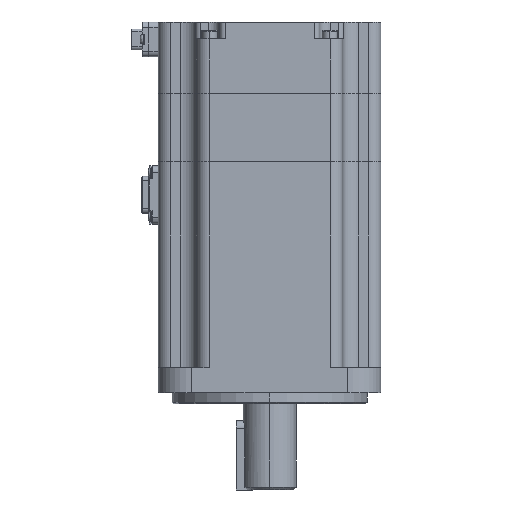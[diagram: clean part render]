
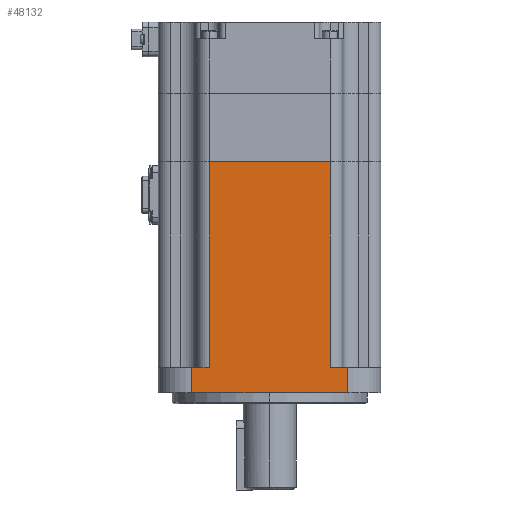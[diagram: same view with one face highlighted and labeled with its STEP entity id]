
A CAD part, left-side view. The second image highlights one B-rep face of the part: STEP entity #48132.
In plain terms, the highlighted planar face has unit normal (-1, 0, 0).
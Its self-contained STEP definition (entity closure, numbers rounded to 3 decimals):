
#552 = CARTESIAN_POINT ( 'NONE',  ( -40., 21.75, 87. ) ) ;
#2321 = DIRECTION ( 'NONE',  ( 0., -1., 0. ) ) ;
#2668 = VECTOR ( 'NONE', #68116, 1000. ) ;
#2839 = EDGE_CURVE ( 'NONE', #43156, #38059, #13300, .T. ) ;
#3531 = VECTOR ( 'NONE', #16710, 1000. ) ;
#4527 = EDGE_CURVE ( 'NONE', #18240, #38059, #11697, .T. ) ;
#4673 = EDGE_CURVE ( 'NONE', #35589, #41060, #36978, .T. ) ;
#7216 = LINE ( 'NONE', #73335, #30425 ) ;
#7989 = DIRECTION ( 'NONE',  ( 0., 0., -1. ) ) ;
#9378 = CARTESIAN_POINT ( 'NONE',  ( -40., -28., 13. ) ) ;
#10597 = ORIENTED_EDGE ( 'NONE', *, *, #66882, .F. ) ;
#11697 = LINE ( 'NONE', #30749, #57533 ) ;
#13300 = LINE ( 'NONE', #37046, #29886 ) ;
#13603 = LINE ( 'NONE', #66908, #16687 ) ;
#16687 = VECTOR ( 'NONE', #2321, 1000. ) ;
#16710 = DIRECTION ( 'NONE',  ( 0., 0., -1. ) ) ;
#18240 = VERTEX_POINT ( 'NONE', #23488 ) ;
#20461 = PLANE ( 'NONE',  #62193 ) ;
#23444 = CARTESIAN_POINT ( 'NONE',  ( -40., 40., 13. ) ) ;
#23488 = CARTESIAN_POINT ( 'NONE',  ( -40., -28., 4. ) ) ;
#24944 = CARTESIAN_POINT ( 'NONE',  ( -40., -21.75, 13. ) ) ;
#25780 = EDGE_CURVE ( 'NONE', #43156, #72352, #76753, .T. ) ;
#26441 = CARTESIAN_POINT ( 'NONE',  ( -40., 40., 13. ) ) ;
#27265 = LINE ( 'NONE', #9378, #2668 ) ;
#28919 = DIRECTION ( 'NONE',  ( 0., -1., 0. ) ) ;
#29561 = CARTESIAN_POINT ( 'NONE',  ( -40., 21.75, 13. ) ) ;
#29886 = VECTOR ( 'NONE', #60756, 1000. ) ;
#30425 = VECTOR ( 'NONE', #7989, 1000. ) ;
#30749 = CARTESIAN_POINT ( 'NONE',  ( -40., 40., 4. ) ) ;
#34744 = CARTESIAN_POINT ( 'NONE',  ( -40., -28., 13. ) ) ;
#35354 = ORIENTED_EDGE ( 'NONE', *, *, #25780, .F. ) ;
#35589 = VERTEX_POINT ( 'NONE', #24944 ) ;
#36978 = LINE ( 'NONE', #26441, #74922 ) ;
#37046 = CARTESIAN_POINT ( 'NONE',  ( -40., 28., 13. ) ) ;
#38059 = VERTEX_POINT ( 'NONE', #66444 ) ;
#38359 = DIRECTION ( 'NONE',  ( 0., 1., 0. ) ) ;
#39740 = VERTEX_POINT ( 'NONE', #552 ) ;
#40605 = CARTESIAN_POINT ( 'NONE',  ( -40., 28., 13. ) ) ;
#41060 = VERTEX_POINT ( 'NONE', #34744 ) ;
#41429 = EDGE_CURVE ( 'NONE', #18240, #41060, #27265, .T. ) ;
#41505 = CARTESIAN_POINT ( 'NONE',  ( -40., -21.75, 87. ) ) ;
#42835 = ORIENTED_EDGE ( 'NONE', *, *, #41429, .T. ) ;
#43156 = VERTEX_POINT ( 'NONE', #40605 ) ;
#43822 = CARTESIAN_POINT ( 'NONE',  ( -40., 40., 13. ) ) ;
#45531 = LINE ( 'NONE', #75471, #3531 ) ;
#46117 = VECTOR ( 'NONE', #28919, 1000. ) ;
#47661 = ORIENTED_EDGE ( 'NONE', *, *, #4527, .F. ) ;
#48132 = ADVANCED_FACE ( 'NONE', ( #73369 ), #20461, .F. ) ;
#48684 = ORIENTED_EDGE ( 'NONE', *, *, #48851, .T. ) ;
#48851 = EDGE_CURVE ( 'NONE', #39740, #72352, #45531, .T. ) ;
#50177 = DIRECTION ( 'NONE',  ( 0., -1., 0. ) ) ;
#50419 = DIRECTION ( 'NONE',  ( 1., 0., 0. ) ) ;
#55546 = ORIENTED_EDGE ( 'NONE', *, *, #2839, .T. ) ;
#57533 = VECTOR ( 'NONE', #76689, 1000. ) ;
#58903 = VERTEX_POINT ( 'NONE', #41505 ) ;
#60756 = DIRECTION ( 'NONE',  ( 0., 0., -1. ) ) ;
#62193 = AXIS2_PLACEMENT_3D ( 'NONE', #43822, #50419, #38359 ) ;
#64590 = EDGE_CURVE ( 'NONE', #39740, #58903, #13603, .T. ) ;
#66444 = CARTESIAN_POINT ( 'NONE',  ( -40., 28., 4. ) ) ;
#66882 = EDGE_CURVE ( 'NONE', #58903, #35589, #7216, .T. ) ;
#66908 = CARTESIAN_POINT ( 'NONE',  ( -40., 21.75, 87. ) ) ;
#68116 = DIRECTION ( 'NONE',  ( 0., 0., 1. ) ) ;
#68796 = EDGE_LOOP ( 'NONE', ( #47661, #42835, #72267, #10597, #72516, #48684, #35354, #55546 ) ) ;
#72267 = ORIENTED_EDGE ( 'NONE', *, *, #4673, .F. ) ;
#72352 = VERTEX_POINT ( 'NONE', #29561 ) ;
#72516 = ORIENTED_EDGE ( 'NONE', *, *, #64590, .F. ) ;
#73335 = CARTESIAN_POINT ( 'NONE',  ( -40., -21.75, 87. ) ) ;
#73369 = FACE_OUTER_BOUND ( 'NONE', #68796, .T. ) ;
#74922 = VECTOR ( 'NONE', #50177, 1000. ) ;
#75471 = CARTESIAN_POINT ( 'NONE',  ( -40., 21.75, 87. ) ) ;
#76689 = DIRECTION ( 'NONE',  ( 0., 1., 0. ) ) ;
#76753 = LINE ( 'NONE', #23444, #46117 ) ;
